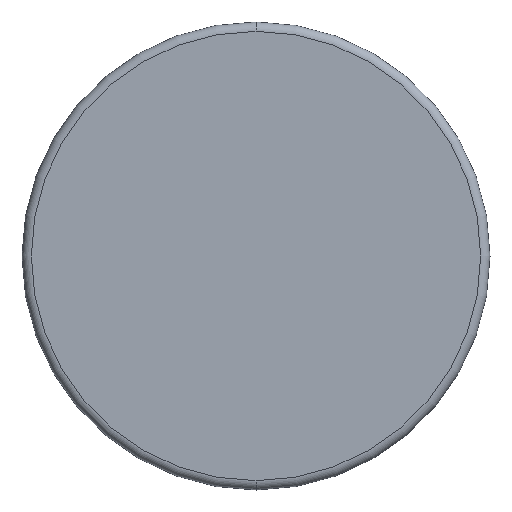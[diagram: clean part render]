
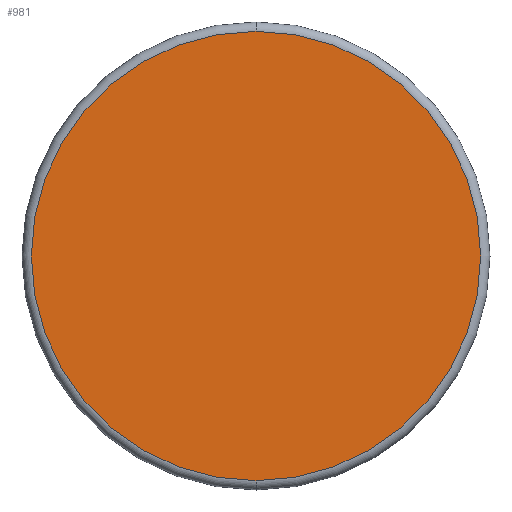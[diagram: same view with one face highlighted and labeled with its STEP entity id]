
A CAD part, front view. The second image highlights one B-rep face of the part: STEP entity #981.
In plain terms, the highlighted planar face has unit normal (0, -1, 0).
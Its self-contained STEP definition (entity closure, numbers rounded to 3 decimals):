
#141 = EDGE_CURVE ( 'NONE', #880, #1093, #1064, .T. ) ;
#149 = DIRECTION ( 'NONE',  ( 0., 0., 1. ) ) ;
#328 = DIRECTION ( 'NONE',  ( 0., 1., 0. ) ) ;
#330 = CARTESIAN_POINT ( 'NONE',  ( 0., 0., 0. ) ) ;
#335 = FACE_OUTER_BOUND ( 'NONE', #529, .T. ) ;
#401 = ORIENTED_EDGE ( 'NONE', *, *, #540, .T. ) ;
#420 = PLANE ( 'NONE',  #446 ) ;
#446 = AXIS2_PLACEMENT_3D ( 'NONE', #879, #328, #149 ) ;
#484 = AXIS2_PLACEMENT_3D ( 'NONE', #625, #977, #728 ) ;
#529 = EDGE_LOOP ( 'NONE', ( #401, #840 ) ) ;
#540 = EDGE_CURVE ( 'NONE', #1093, #880, #876, .T. ) ;
#625 = CARTESIAN_POINT ( 'NONE',  ( 0., 0., 0. ) ) ;
#697 = DIRECTION ( 'NONE',  ( 0., 0., -1. ) ) ;
#728 = DIRECTION ( 'NONE',  ( 0., 0., -1. ) ) ;
#840 = ORIENTED_EDGE ( 'NONE', *, *, #141, .T. ) ;
#853 = CARTESIAN_POINT ( 'NONE',  ( 0., 0., -24. ) ) ;
#876 = CIRCLE ( 'NONE', #1030, 24. ) ;
#879 = CARTESIAN_POINT ( 'NONE',  ( 0., 0., 0. ) ) ;
#880 = VERTEX_POINT ( 'NONE', #1020 ) ;
#977 = DIRECTION ( 'NONE',  ( 0., -1., 0. ) ) ;
#981 = ADVANCED_FACE ( 'NONE', ( #335 ), #420, .F. ) ;
#1020 = CARTESIAN_POINT ( 'NONE',  ( 0., 0., 24. ) ) ;
#1030 = AXIS2_PLACEMENT_3D ( 'NONE', #330, #1068, #697 ) ;
#1064 = CIRCLE ( 'NONE', #484, 24. ) ;
#1068 = DIRECTION ( 'NONE',  ( 0., -1., 0. ) ) ;
#1093 = VERTEX_POINT ( 'NONE', #853 ) ;
